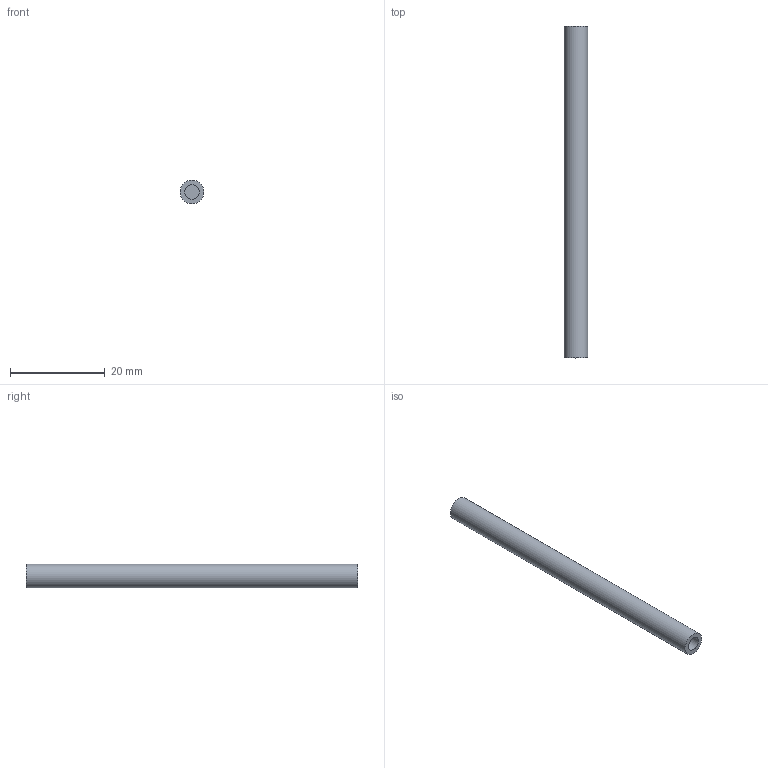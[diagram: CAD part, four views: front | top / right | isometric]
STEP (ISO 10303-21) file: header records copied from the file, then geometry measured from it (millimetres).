
FILE_DESCRIPTION(/* description */ (''),/* implementation_level */ '2;1');
FILE_NAME(/* name */ 'C:/Users/priba/Downloads/Spacer 3-70.step',/* time_stamp */ '2022-04-12T13:09:40+02:00',/* author */ (''),/* organization */ (''),/* preprocessor_version */ 'ST-DEVELOPER v18.1',/* originating_system */ 'Autodesk Translation Framework v10.13.0.1454',/* authorisation */ '');
FILE_SCHEMA (('AUTOMOTIVE_DESIGN { 1 0 10303 214 3 1 1 }'));
Length unit declared in the file: millimetre
Products named in the file (1): Spacer 3-70
Bounding box: 5 x 70 x 5 mm (x, y, z)
Volume: 1289.6 mm3; surface area: 1251.9 mm2
Topology: 1 solids, 1 shells, 7 faces, 9 edges, 6 vertices
Faces by surface type: plane 4, cylinder 3
Full cylindrical faces by diameter (mm): 3 x2, 5 x1
Entity records: 182 total; most frequent: DIRECTION 31, CARTESIAN_POINT 23, ORIENTED_EDGE 18, AXIS2_PLACEMENT_3D 14, EDGE_LOOP 9, EDGE_CURVE 9, FACE_OUTER_BOUND 7, ADVANCED_FACE 7
